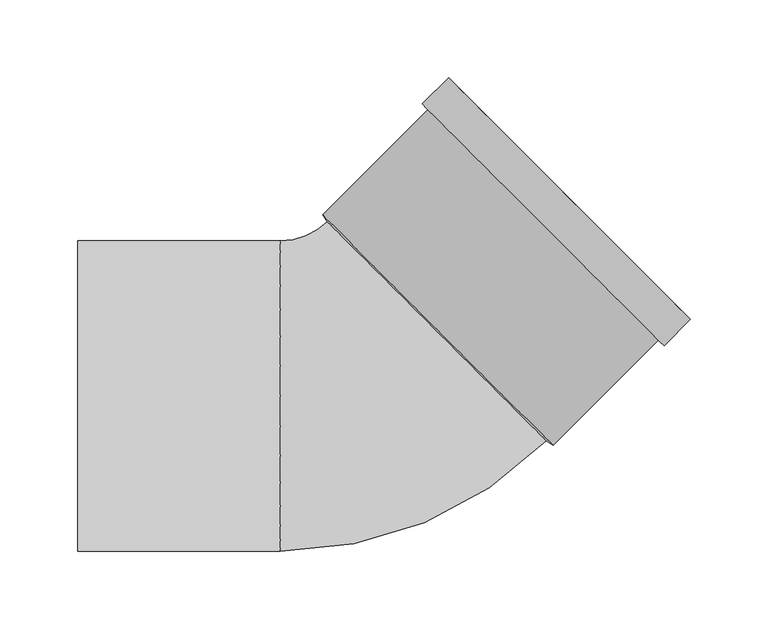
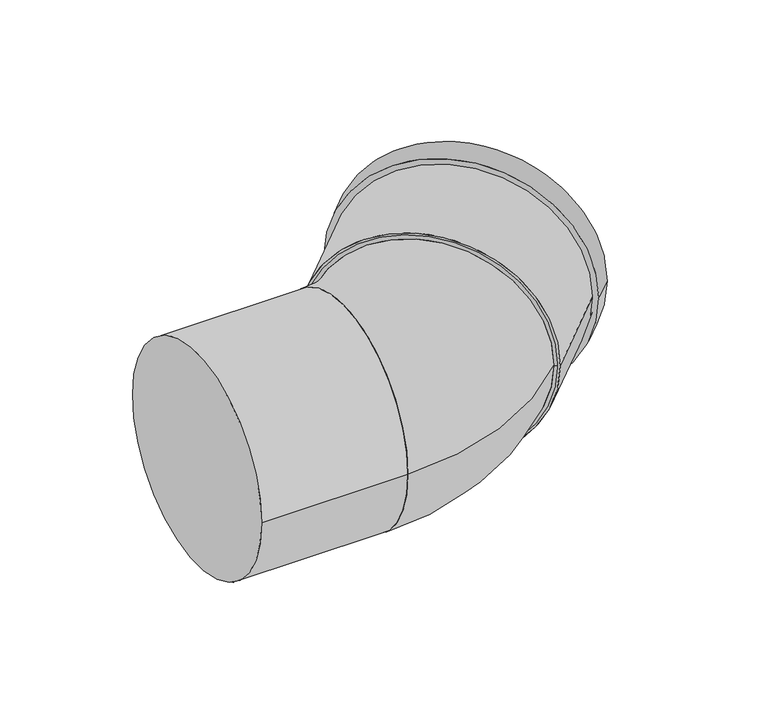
"""IFC4 building model written with IfcOpenShell, lengths in millimetres: pipe fitting geometry, Superdrain SKB Bend : Superdrain SKB Bend."""

from ifc_helpers import new_model, si_unit, point, frame, origin, origin_2d, place, context, project, spatial, polyline, circle_curve, ellipse_curve, trimmed, segment, composite_curve, outline, extrude, source, transform, mapped, element, save
from ifc_brep_helpers import plane_surface, revolved_surface, advanced_brep


def pipe_fitting_4222d3d8(model_context):
    return source(origin(), model_context, "Body", "SolidModel", [
        advanced_brep(
        [(112.4299782, -28.991378, 0.0), (-28.991378, 112.4299782, 0.0), (-59.0, -100.0, 0.0), (-59.0, 100.0, 0.0)],
        [
            (0, 1, circle_curve(frame((41.7193001, 41.7193001, 0.0), z_axis=(0.707106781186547, 0.707106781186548, 0.0), x_axis=(-0.707106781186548, 0.707106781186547, 0.0)), 100.0)),
            (1, 0, circle_curve(frame((41.7193001, 41.7193001, 0.0), z_axis=(0.7071067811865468, 0.7071067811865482, 0.0), x_axis=(-0.7071067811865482, 0.7071067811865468, 0.0)), 100.0)),
            (2, 3, circle_curve(frame((-59.0, 0.0, 0.0), z_axis=(-1.0, 0.0, 0.0), x_axis=(0.0, 1.0, 0.0)), 100.0)),
            (3, 2, circle_curve(frame((-59.0, 0.0, 0.0), z_axis=(-1.0, 0.0, 0.0), x_axis=(0.0, 1.0, 0.0)), 100.0)),
            (3, 1, circle_curve(frame((-59.0, 142.4386002, 0.0), z_axis=(0.0, 0.0, 1.0), x_axis=(1.0, 0.0, 0.0)), 42.4386002)),
            (0, 2, circle_curve(frame((-59.0, 142.4386002, 0.0), z_axis=(0.0, 0.0, -1.0), x_axis=(1.0, 0.0, 0.0)), 242.4386002)),
        ],
        [
            plane_surface(frame((41.7193001, 41.7193001, 0.0), z_axis=(0.707106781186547, 0.707106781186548, 0.0), x_axis=(0.0, 0.0, -1.0))),
            plane_surface(frame((-59.0, 0.0, 0.0), z_axis=(-1.0, 0.0, 0.0), x_axis=(0.0, 0.0, -1.0))),
            revolved_surface(trimmed(ellipse_curve(frame((83.4386002, 142.4386002, 0.0), z_axis=(0.0, -1.0, 0.0), x_axis=(-1.0, 0.0, 0.0)), 100.0, 100.0), [point((-16.5613998, 142.4386002, 0.0))], [point((183.4386002, 142.4386002, 0.0))], True, "CARTESIAN"), (-59.0, 142.4386002, 0.0), (0.0, 0.0, 1.0)),
            revolved_surface(trimmed(ellipse_curve(frame((83.4386002, 142.4386002, 0.0), z_axis=(0.0, -1.0, 0.0), x_axis=(-1.0, 0.0, 0.0)), 100.0, 100.0), [point((183.4386002, 142.4386002, 0.0))], [point((-16.5613998, 142.4386002, 0.0))], True, "CARTESIAN"), (-59.0, 142.4386002, 0.0), (0.0, 0.0, 1.0)),
        ],
        [
            (0, [[1, 2]]),
            (1, [[3, 4]]),
            (2, [[-4, 5, -1, 6]]),
            (3, [[-3, -6, -2, -5]]),
        ],
    ),
        extrude(outline(composite_curve([segment(trimmed(circle_curve(origin_2d(), 105.0), [point((0.0, 105.0))], [point((0.0, -105.0))], False, "CARTESIAN"), True, "CONTINUOUS"), segment(trimmed(circle_curve(origin_2d(), 105.0), [point((0.0, -105.0))], [point((0.0, 105.0))], False, "CARTESIAN"), True, "CONTINUOUS")], self_intersect=False), holes=[composite_curve([segment(trimmed(circle_curve(origin_2d(), 100.0), [point((0.0, 100.0))], [point((0.0, -100.0))], True, "CARTESIAN"), True, "CONTINUOUS"), segment(trimmed(circle_curve(origin_2d(), 100.0), [point((0.0, -100.0))], [point((0.0, 100.0))], True, "CARTESIAN"), True, "CONTINUOUS")], self_intersect=False)]), frame((42.4264069, 42.4264069, 0.0), z_axis=(0.707106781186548, 0.707106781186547, 0.0), x_axis=(0.0, 0.0, 1.0)), (0.0, 0.0, 1.0), 120.0),
        extrude(outline(composite_curve([segment(trimmed(circle_curve(origin_2d(), 110.25), [point((0.0, -110.25))], [point((0.0, 110.25))], False, "CARTESIAN"), True, "CONTINUOUS"), segment(trimmed(circle_curve(origin_2d(), 110.25), [point((0.0, 110.25))], [point((0.0, -110.25))], False, "CARTESIAN"), True, "CONTINUOUS")], self_intersect=False), holes=[composite_curve([segment(trimmed(circle_curve(origin_2d(), 100.0), [point((0.0, -100.0))], [point((0.0, 100.0))], True, "CARTESIAN"), True, "CONTINUOUS"), segment(trimmed(circle_curve(origin_2d(), 100.0), [point((0.0, 100.0))], [point((0.0, -100.0))], True, "CARTESIAN"), True, "CONTINUOUS")], self_intersect=False)]), frame((110.3086579, 110.3086579, 0.0), z_axis=(0.7071067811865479, 0.7071067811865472, 0.0), x_axis=(0.0, 0.0, 1.0)), (0.0, 0.0, 1.0), 24.0),
        advanced_brep(
        [(116.6726189, -31.8198052, 0.0), (-31.8198052, 116.6726189, 0.0), (112.4299782, -28.991378, 0.0), (-28.991378, 112.4299782, 0.0)],
        [
            (0, 1, circle_curve(frame((42.4264069, 42.4264069, 0.0), z_axis=(0.7071067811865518, 0.7071067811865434, 0.0), x_axis=(0.7071067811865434, -0.7071067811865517, 0.0)), 105.0)),
            (1, 0, circle_curve(frame((42.4264069, 42.4264069, 0.0), z_axis=(0.7071067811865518, 0.7071067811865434, 0.0), x_axis=(-0.7071067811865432, 0.7071067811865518, 0.0)), 105.0)),
            (2, 3, circle_curve(frame((41.7193001, 41.7193001, 0.0), z_axis=(-0.7071067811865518, -0.7071067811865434, 0.0), x_axis=(-0.7071067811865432, 0.7071067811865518, 0.0)), 100.0)),
            (3, 2, circle_curve(frame((41.7193001, 41.7193001, 0.0), z_axis=(-0.7071067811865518, -0.7071067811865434, 0.0), x_axis=(0.7071067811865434, -0.7071067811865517, 0.0)), 100.0)),
            (3, 1),
            (0, 2),
        ],
        [
            plane_surface(frame((42.4264069, 42.4264069, 0.0), z_axis=(0.7071067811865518, 0.7071067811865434, 0.0), x_axis=(0.0, 0.0, -1.0))),
            plane_surface(frame((41.7193001, 41.7193001, 0.0), z_axis=(-0.7071067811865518, -0.7071067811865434, 0.0), x_axis=(0.0, 0.0, -1.0))),
            revolved_surface(polyline([(-28.991378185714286, 112.42997838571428, 0.0), (-31.819805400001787, 116.67261920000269, 0.0)]), (27.5771645, 27.5771645, 0.0), (0.7071067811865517, 0.7071067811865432, 0.0)),
            revolved_surface(polyline([(112.4299783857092, -28.991378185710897, 0.0), (116.67261919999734, -31.819805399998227, 0.0)]), (27.5771645, 27.5771645, 0.0), (0.7071067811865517, 0.7071067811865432, 0.0)),
        ],
        [
            (0, [[1, 2]]),
            (1, [[3, 4]]),
            (2, [[-4, 5, -1, 6]]),
            (3, [[-3, -6, -2, -5]]),
        ],
    ),
        extrude(outline(composite_curve([segment(trimmed(circle_curve(origin_2d(), 100.0), [point((-100.0, 0.0))], [point((100.0, 0.0))], False, "CARTESIAN"), True, "CONTINUOUS"), segment(trimmed(circle_curve(origin_2d(), 100.0), [point((100.0, 0.0))], [point((-100.0, 0.0))], False, "CARTESIAN"), True, "CONTINUOUS")], self_intersect=False)), frame((-189.8, 0.0, 0.0), z_axis=(1.0, 0.0, 0.0), x_axis=(0.0, 1.0, 0.0)), (0.0, 0.0, 1.0), 130.8),
    ])


if __name__ == "__main__":
    model = new_model("IFC4")
    model_context = context("Model", 3, world=origin())
    ifc_project = project(units=[si_unit("LENGTHUNIT", "METRE", prefix="MILLI")], contexts=[model_context])
    site = spatial("IfcSite", under=ifc_project)
    building = spatial("IfcBuilding", under=site)
    placement = place(None, origin())
    pipe_fitting_shape = pipe_fitting_4222d3d8(model_context)
    element("IfcPipeFitting", 1, ObjectType="Superdrain SKB Bend : Superdrain SKB Bend", at=placement, inside=building, context=model_context, shape_type="MappedRepresentation", body=[
        mapped(pipe_fitting_shape, transform((0.0, 0.0, 0.0), x_axis=(1.0, 0.0, 0.0), y_axis=(0.0, 1.0, 0.0), z_axis=(0.0, 0.0, 1.0))),
    ])
    save(model, "model.ifc")
